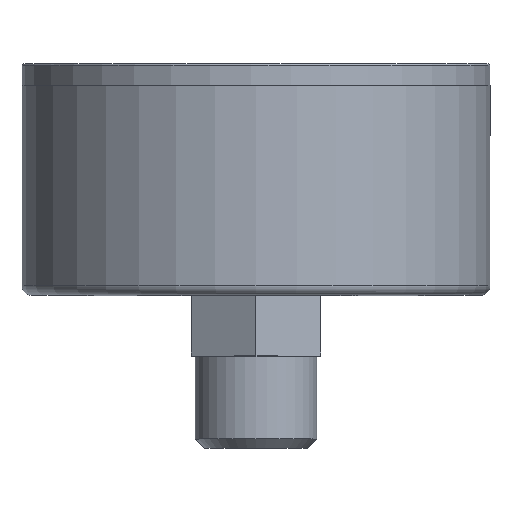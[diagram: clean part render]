
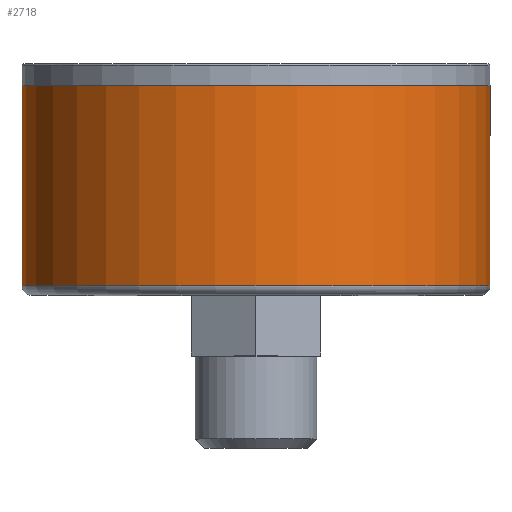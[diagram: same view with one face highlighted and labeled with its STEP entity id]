
A CAD part, top view. The second image highlights one B-rep face of the part: STEP entity #2718.
In plain terms, the highlighted cylindrical face has radius 25 mm (diameter 50 mm), a full revolution.
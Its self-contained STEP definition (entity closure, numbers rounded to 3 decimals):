
#2661=CARTESIAN_POINT('',(25.0,17.36,0.));
#2662=VERTEX_POINT('',#2661);
#2663=CARTESIAN_POINT('',(0.,17.36,0.));
#2664=DIRECTION('',(0.0,-1.0,0.0));
#2665=DIRECTION('',(-1.0,0.0,0.0));
#2666=AXIS2_PLACEMENT_3D('',#2663,#2664,#2665);
#2667=CIRCLE('',#2666,25.0);
#2668=EDGE_CURVE('',#2662,#2662,#2667,.T.);
#2699=CARTESIAN_POINT('',(0.,16.36,0.));
#2700=DIRECTION('',(0.0,1.0,0.));
#2701=DIRECTION('',(-1.0,0.0,0.0));
#2702=AXIS2_PLACEMENT_3D('',#2699,#2700,#2701);
#2703=CYLINDRICAL_SURFACE('',#2702,25.0);
#2704=CARTESIAN_POINT('',(25.0,38.76,0.));
#2705=VERTEX_POINT('',#2704);
#2706=CARTESIAN_POINT('',(0.,38.76,0.));
#2707=DIRECTION('',(0.0,-1.0,0.0));
#2708=DIRECTION('',(-1.0,0.0,0.0));
#2709=AXIS2_PLACEMENT_3D('',#2706,#2707,#2708);
#2710=CIRCLE('',#2709,25.0);
#2711=EDGE_CURVE('',#2705,#2705,#2710,.T.);
#2712=ORIENTED_EDGE('',*,*,#2711,.T.);
#2713=EDGE_LOOP('',(#2712));
#2714=FACE_OUTER_BOUND('',#2713,.T.);
#2715=ORIENTED_EDGE('',*,*,#2668,.F.);
#2716=EDGE_LOOP('',(#2715));
#2717=FACE_BOUND('',#2716,.T.);
#2718=ADVANCED_FACE('',(#2714,#2717),#2703,.T.);
